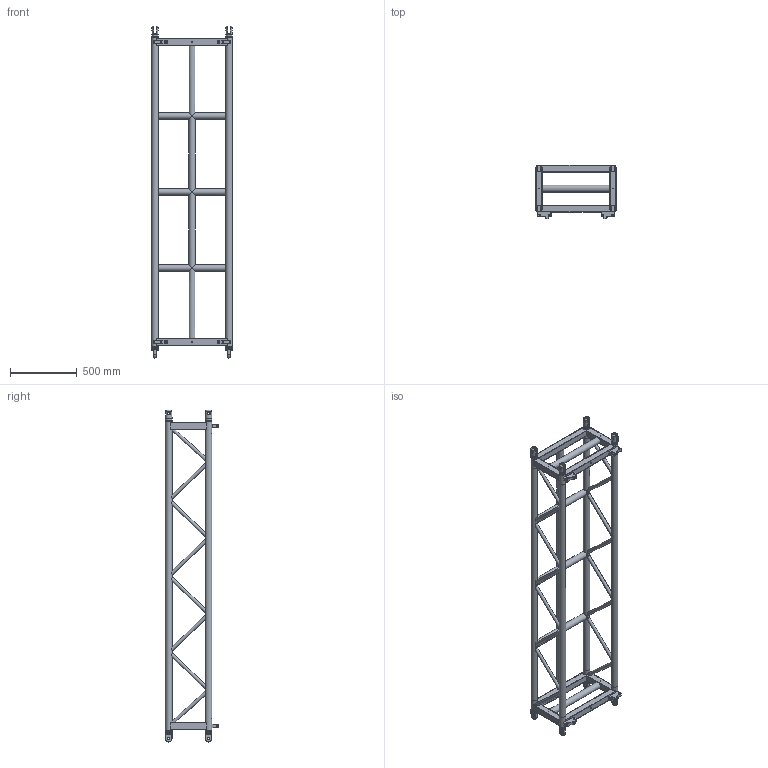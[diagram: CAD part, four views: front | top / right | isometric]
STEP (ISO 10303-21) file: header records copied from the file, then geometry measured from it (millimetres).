
FILE_DESCRIPTION(/* description */ (''),/* implementation_level */ '2;1');
FILE_NAME(/* name */ 'K:\Techniek\CAD Tekeningen\Inventor transport\Cas\Archief\Makerting\Markerting-000003.stp',/* time_stamp */ '2021-03-25T11:54:08+01:00',/* author */ ('Cas'),/* organization */ (''),/* preprocessor_version */ 'ST-DEVELOPER v18',/* originating_system */ 'Autodesk Inventor 2020',/* authorisation */ '');
FILE_SCHEMA (('AUTOMOTIVE_DESIGN { 1 0 10303 214 3 1 1 }'));
Length unit declared in the file: millimetre
Products named in the file (19): Markerting-000003; PRT-L244; PRT-L244_frm; PRT-L244_skel; AR50-42-S-000003; PRT-253-347D; PRT-115; PRT-116; PRT-117; BUS-504-M30; AR50-44-S-000010; PRT-118; PRT-503-555R; PRT-503-533; PRT-503-570; C-BRC-253-368D; din_1804-m30x1_5-w; PRT-CON-F; PRT-CON-M
Assembly tree (68 placements, depth 4):
  Markerting-000003
    PRT-L244
      PRT-L244_frm
        PRT-L244_skel
        AR50-42-S-000003  x4
        PRT-253-347D  x4
        C-BRC-253-368D  x8
      PRT-115  x4
      PRT-116  x2
      PRT-503-555R  x3
      PRT-117  x2
      BUS-504-M30  x8
      AR50-44-S-000010  x2
      PRT-118  x4
      PRT-503-533  x2
      PRT-503-570  x2
      C-BRC-253-368D  x4
    din_1804-m30x1_5-w  x8
    PRT-CON-F  x4
    PRT-CON-M  x4
Bounding box: 605 x 399 x 2490 mm (x, y, z)
Volume: 12313281.6 mm3; surface area: 6489825.3 mm2
Topology: 65 solids, 65 shells, 1238 faces, 3258 edges, 2160 vertices
Faces by surface type: plane 582, cylinder 452, cone 184, bspline 8, torus 8, sphere 4
Full cylindrical faces by diameter (mm): 2 x8, 3 x8, 10 x8, 10.5 x2, 16 x12, 19 x16, 25 x16, 28.376 x8, 28.5 x8, 30 x8, 30.4 x8, 32 x8, 40 x2, 41.6 x8, 42 x4, 43 x8, 44 x17, 49.6 x8, 50 x21
Entity records: 12566 total; most frequent: CARTESIAN_POINT 2841, DIRECTION 2003, ORIENTED_EDGE 1810, EDGE_CURVE 905, AXIS2_PLACEMENT_3D 751, VERTEX_POINT 603, LINE 501, VECTOR 501
